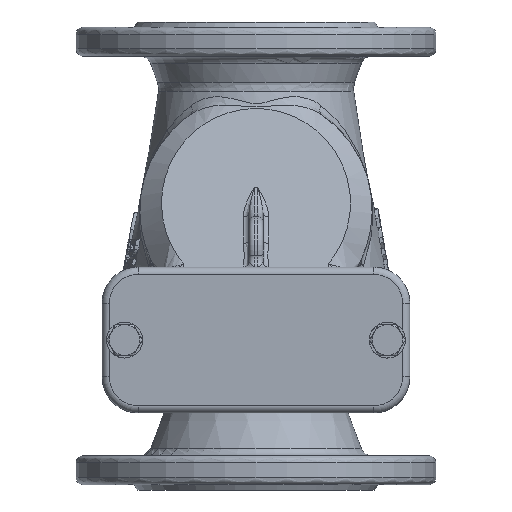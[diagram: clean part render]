
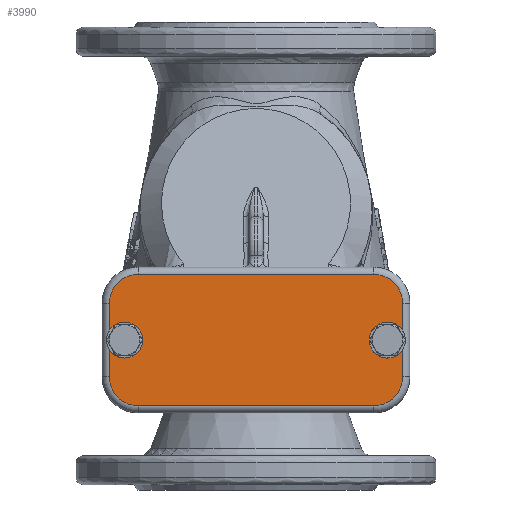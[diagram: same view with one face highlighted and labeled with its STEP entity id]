
A CAD part, left-side view. The second image highlights one B-rep face of the part: STEP entity #3990.
In plain terms, the highlighted planar face has unit normal (-1, 0, 0).
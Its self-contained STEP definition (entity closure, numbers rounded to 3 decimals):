
#3990=ADVANCED_FACE('',(#10404),#10406,.F.);
#10404=FACE_BOUND('',#10405,.T.);
#10405=EDGE_LOOP('',(#14355,#14356,#14357,#14358,#14359,#14360,#14361,#14362,#14363,
#14364,#14365,#14366,#14367,#14368));
#10406=PLANE('',#10407);
#10407=AXIS2_PLACEMENT_3D('',#10408,#10409,#10410);
#10408=CARTESIAN_POINT('',(-133.,-52.,42.8));
#10409=DIRECTION('',(1.,0.,0.));
#10410=DIRECTION('',(0.,0.,-1.));
#14355=ORIENTED_EDGE('',*,*,#16877,.F.);
#14356=ORIENTED_EDGE('',*,*,#16878,.T.);
#14357=ORIENTED_EDGE('',*,*,#16879,.T.);
#14358=ORIENTED_EDGE('',*,*,#16850,.T.);
#14359=ORIENTED_EDGE('',*,*,#16880,.T.);
#14360=ORIENTED_EDGE('',*,*,#16881,.T.);
#14361=ORIENTED_EDGE('',*,*,#16882,.T.);
#14362=ORIENTED_EDGE('',*,*,#16883,.T.);
#14363=ORIENTED_EDGE('',*,*,#16884,.T.);
#14364=ORIENTED_EDGE('',*,*,#16885,.T.);
#14365=ORIENTED_EDGE('',*,*,#16875,.T.);
#14366=ORIENTED_EDGE('',*,*,#16841,.T.);
#14367=ORIENTED_EDGE('',*,*,#16874,.T.);
#14368=ORIENTED_EDGE('',*,*,#16886,.T.);
#16841=EDGE_CURVE('',#19411,#19409,#19412,.T.);
#16850=EDGE_CURVE('',#19425,#19423,#19426,.T.);
#16874=EDGE_CURVE('',#19409,#19457,#19459,.T.);
#16875=EDGE_CURVE('',#19460,#19411,#19461,.T.);
#16877=EDGE_CURVE('',#19463,#19464,#19465,.T.);
#16878=EDGE_CURVE('',#19463,#19466,#19467,.T.);
#16879=EDGE_CURVE('',#19466,#19425,#19468,.T.);
#16880=EDGE_CURVE('',#19423,#19469,#19470,.T.);
#16881=EDGE_CURVE('',#19469,#19471,#19472,.T.);
#16882=EDGE_CURVE('',#19471,#19473,#19474,.T.);
#16883=EDGE_CURVE('',#19473,#19475,#19476,.T.);
#16884=EDGE_CURVE('',#19475,#19477,#19478,.T.);
#16885=EDGE_CURVE('',#19477,#19460,#19479,.T.);
#16886=EDGE_CURVE('',#19457,#19464,#19480,.T.);
#19409=VERTEX_POINT('',#41921);
#19411=VERTEX_POINT('',#41926);
#19412=LINE('',#41927,#41928);
#19423=VERTEX_POINT('',#41958);
#19425=VERTEX_POINT('',#41963);
#19426=LINE('',#41964,#41965);
#19457=VERTEX_POINT('',#42313);
#19459=CIRCLE('',#42318,16.);
#19460=VERTEX_POINT('',#42322);
#19461=CIRCLE('',#42323,16.);
#19463=VERTEX_POINT('',#42331);
#19464=VERTEX_POINT('',#42332);
#19465=CIRCLE('',#42333,10.);
#19466=VERTEX_POINT('',#42337);
#19467=LINE('',#42338,#42339);
#19468=CIRCLE('',#42341,16.);
#19469=VERTEX_POINT('',#42345);
#19470=CIRCLE('',#42346,16.);
#19471=VERTEX_POINT('',#42350);
#19472=LINE('',#42351,#42352);
#19473=VERTEX_POINT('',#42354);
#19474=CIRCLE('',#42355,10.);
#19475=VERTEX_POINT('',#42359);
#19476=CIRCLE('',#42360,10.);
#19477=VERTEX_POINT('',#42364);
#19478=CIRCLE('',#42365,10.);
#19479=LINE('',#42369,#42370);
#19480=LINE('',#42372,#42373);
#41921=CARTESIAN_POINT('',(-133.,65.5,119.8));
#41926=CARTESIAN_POINT('',(-133.,-65.5,119.8));
#41927=CARTESIAN_POINT('',(-133.,-65.5,119.8));
#41928=VECTOR('',#41929,1.);
#41929=DIRECTION('',(0.,1.,0.));
#41958=CARTESIAN_POINT('',(-133.,-65.5,46.8));
#41963=CARTESIAN_POINT('',(-133.,65.5,46.8));
#41964=CARTESIAN_POINT('',(-133.,65.5,46.8));
#41965=VECTOR('',#41966,1.);
#41966=DIRECTION('',(0.,-1.,0.));
#42313=CARTESIAN_POINT('',(-133.,81.5,103.8));
#42318=AXIS2_PLACEMENT_3D('',#42319,#42320,#42321);
#42319=CARTESIAN_POINT('',(-133.,65.5,103.8));
#42320=DIRECTION('',(-1.,0.,0.));
#42321=DIRECTION('',(0.,0.,1.));
#42322=CARTESIAN_POINT('',(-133.,-81.5,103.8));
#42323=AXIS2_PLACEMENT_3D('',#42324,#42325,#42326);
#42324=CARTESIAN_POINT('',(-133.,-65.5,103.8));
#42325=DIRECTION('',(-1.,0.,0.));
#42326=DIRECTION('',(0.,-1.,0.));
#42331=CARTESIAN_POINT('',(-133.,81.5,78.032));
#42332=CARTESIAN_POINT('',(-133.,81.5,88.568));
#42333=AXIS2_PLACEMENT_3D('',#42334,#42335,#42336);
#42334=CARTESIAN_POINT('',(-133.,73.,83.3));
#42335=DIRECTION('',(-1.,0.,0.));
#42336=DIRECTION('',(0.,0.85,-0.527));
#42337=CARTESIAN_POINT('',(-133.,81.5,62.8));
#42338=CARTESIAN_POINT('',(-133.,81.5,78.032));
#42339=VECTOR('',#42340,1.);
#42340=DIRECTION('',(0.,0.,-1.));
#42341=AXIS2_PLACEMENT_3D('',#42342,#42343,#42344);
#42342=CARTESIAN_POINT('',(-133.,65.5,62.8));
#42343=DIRECTION('',(-1.,0.,0.));
#42344=DIRECTION('',(0.,1.,0.));
#42345=CARTESIAN_POINT('',(-133.,-81.5,62.8));
#42346=AXIS2_PLACEMENT_3D('',#42347,#42348,#42349);
#42347=CARTESIAN_POINT('',(-133.,-65.5,62.8));
#42348=DIRECTION('',(-1.,0.,0.));
#42349=DIRECTION('',(0.,0.,-1.));
#42350=CARTESIAN_POINT('',(-133.,-81.5,78.032));
#42351=CARTESIAN_POINT('',(-133.,-81.5,62.8));
#42352=VECTOR('',#42353,1.);
#42353=DIRECTION('',(0.,0.,1.));
#42354=CARTESIAN_POINT('',(-133.,-70.261,92.918));
#42355=AXIS2_PLACEMENT_3D('',#42356,#42357,#42358);
#42356=CARTESIAN_POINT('',(-133.,-73.,83.3));
#42357=DIRECTION('',(1.,0.,0.));
#42358=DIRECTION('',(0.,-0.85,-0.527));
#42359=CARTESIAN_POINT('',(-133.,-70.654,93.021));
#42360=AXIS2_PLACEMENT_3D('',#42361,#42362,#42363);
#42361=CARTESIAN_POINT('',(-133.,-73.,83.3));
#42362=DIRECTION('',(1.,0.,0.));
#42363=DIRECTION('',(0.,0.274,0.962));
#42364=CARTESIAN_POINT('',(-133.,-81.5,88.568));
#42365=AXIS2_PLACEMENT_3D('',#42366,#42367,#42368);
#42366=CARTESIAN_POINT('',(-133.,-73.,83.3));
#42367=DIRECTION('',(1.,0.,0.));
#42368=DIRECTION('',(0.,0.235,0.972));
#42369=CARTESIAN_POINT('',(-133.,-81.5,88.568));
#42370=VECTOR('',#42371,1.);
#42371=DIRECTION('',(0.,0.,1.));
#42372=CARTESIAN_POINT('',(-133.,81.5,103.8));
#42373=VECTOR('',#42374,1.);
#42374=DIRECTION('',(0.,0.,-1.));
